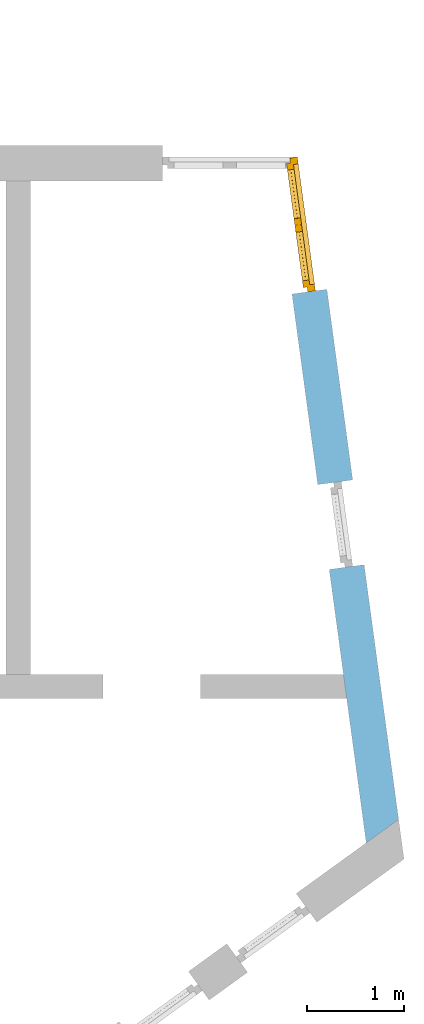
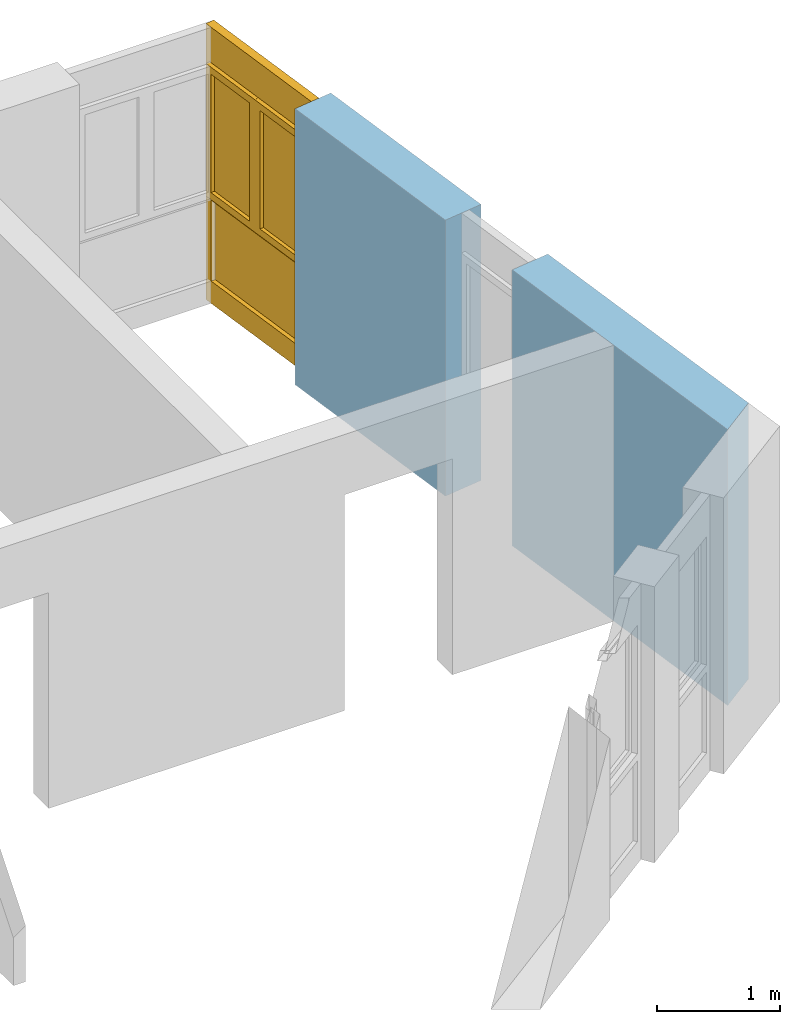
# One storey, part 40 of 41: 1 window, 2 openings, plus 1 element that does not belong to this part.
"""IFC2X3 building model written with IfcOpenShell, lengths in millimetres."""

from ifc_helpers import new_model, entity, si_unit, converted_unit, frame, frame_2d, origin, origin_with_axes, place, context, subcontext, project, spatial, polyline, rectangle, outline, extrude, faceted_brep, material, layer, layer_set, layer_usage, type_object, element, fill, save


model = new_model("IFC2X3")

# Units and contexts
model_context = context("Model", 3, precision=1e-05, world=origin())
body_context = subcontext(model_context, "Body", "Model", "MODEL_VIEW")
ifc_project = project(units=[si_unit("LENGTHUNIT", "METRE", prefix="MILLI"), converted_unit("PLANEANGLEUNIT", "DEGREE", entity("IfcPlaneAngleMeasure", 0.0174532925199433), si_unit("PLANEANGLEUNIT", "RADIAN"), dimensions=[0, 0, 0, 0, 0, 0, 0]), si_unit("AREAUNIT", "SQUARE_METRE"), si_unit("VOLUMEUNIT", "CUBIC_METRE")], contexts=[model_context])

# Building, storey
building_placement = place(None, origin())
building = spatial("IfcBuilding", under=ifc_project, at=building_placement, Name="Gebäude", CompositionType="ELEMENT")
storey_placement = place(building_placement, frame((0.0, 0.0, -200.0), z_axis=(0.0, 0.0, 1.0), x_axis=(1.0, 0.0, 0.0)))
storey = spatial("IfcBuildingStorey", under=building, at=storey_placement, Name="EG.- Grundriss", CompositionType="ELEMENT", Elevation=-200.0)

# Wall, openings, window
ifc_material_1 = material(Name="Poroton")
ifc_layer = layer(ifc_material_1, 365.0000000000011)
ifc_layer_set = layer_set([ifc_layer])
ifc_layer_usage = layer_usage(ifc_layer_set, "AXIS2", "POSITIVE", 0.0)
wall_placement = place(storey_placement, frame((185447.2761832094, 129305.31365621, 0.0), z_axis=(0.0, 0.0, 1.0), x_axis=(-0.1340451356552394, 0.9909752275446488, 0.0)))
wall = element("IfcWallStandardCase", 1, at=wall_placement, inside=storey, material=ifc_layer_usage, Name="<Unnamed Element>", context=body_context, shape_type="SweptSolid", body=[
    extrude(outline(polyline([(0.0, 0.0), (7033.045713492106, 1.13686837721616e-13), (7082.417759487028, 365.0000000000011), (-195.7205517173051, 364.9999999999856), (0.0, 0.0)])), origin_with_axes(), (0.0, 0.0, 1.0), 2730.0),
])
opening_1_placement = place(wall_placement, frame((5533.045713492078, -1.84172677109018e-11, 0.0), z_axis=(0.0, 1.0, 0.0), x_axis=(0.0, 0.0, 1.0)))
opening_1 = element("IfcOpeningElement", 2, at=opening_1_placement, cuts=wall, Name="Fensteröffnung", ObjectType="Opening", context=body_context, shape_type="Brep", body=[
    faceted_brep([(0.0, 1.455191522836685e-11, 365.0), (0.0, 1.455191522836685e-11, 0.0), (0.0, 1500.000000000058, 0.0), (0.0, 1701.067703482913, 1486.46284131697), (0.0, 1339.361745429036, 1535.389315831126), (0.0, 1181.048005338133, 365.0), (2730.0, 1.455191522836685e-11, 0.0), (2730.0, 1.455191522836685e-11, 365.0), (2730.0, 1181.048005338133, 365.0), (2730.0, 1339.361745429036, 1535.389315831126), (2730.0, 1701.067703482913, 1486.46284131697), (2730.0, 1500.000000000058, 0.0), (0.0, 1.455191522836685e-11, 0.0), (0.0, 1.455191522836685e-11, 365.0), (2730.0, 1.455191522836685e-11, 365.0), (2730.0, 1.455191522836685e-11, 0.0), (0.0, 1500.000000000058, 0.0), (0.0, 1.455191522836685e-11, 0.0), (2730.0, 1.455191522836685e-11, 0.0), (2730.0, 1500.000000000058, 0.0), (0.0, 1.455191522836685e-11, 365.0), (0.0, 1181.048005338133, 365.0), (2730.0, 1181.048005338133, 365.0), (2730.0, 1.455191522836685e-11, 365.0), (0.0, 1701.067703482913, 1486.46284131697), (0.0, 1500.000000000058, 0.0), (2730.0, 1500.000000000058, 0.0), (2730.0, 1701.067703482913, 1486.46284131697), (0.0, 1339.361745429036, 1535.389315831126), (0.0, 1701.067703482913, 1486.46284131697), (2730.0, 1701.067703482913, 1486.46284131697), (2730.0, 1339.361745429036, 1535.389315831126), (0.0, 1181.048005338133, 365.0), (0.0, 1339.361745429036, 1535.389315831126), (2730.0, 1339.361745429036, 1535.389315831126), (2730.0, 1181.048005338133, 365.0)], [[[0, 1, 2, 3, 4, 5]], [[6, 7, 8, 9, 10, 11]], [[12, 13, 14, 15]], [[16, 17, 18, 19]], [[20, 21, 22, 23]], [[24, 25, 26, 27]], [[28, 29, 30, 31]], [[32, 33, 34, 35]]], orient=[[False], [False], [False], [False], [False], [False], [False], [False]]),
])
opening_2_placement = place(wall_placement, frame((2658.045713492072, -2.228262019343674e-11, 0.0), z_axis=(0.0, 1.0, 0.0), x_axis=(0.0, 0.0, 1.0)))
element("IfcOpeningElement", 3, at=opening_2_placement, cuts=wall, Name="Fensteröffnung", ObjectType="Opening", context=body_context, shape_type="SweptSolid", body=[
    extrude(rectangle(XDim=2730.0, YDim=885.0000000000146, at=frame_2d((1365.0, 442.5000000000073), x_axis=(1.0, 0.0))), origin_with_axes(), (0.0, 0.0, 1.0), 365.0000000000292),
])
ifc_material_2 = material()
window_style = type_object("IfcWindowStyle", Name="Fenster", ConstructionType="NOTDEFINED", OperationType="USERDEFINED", ParameterTakesPrecedence=False, Sizeable=False)
window_placement = place(opening_1_placement, frame((0.0, 0.0, 0.0), z_axis=(1.0, 0.0, 0.0), x_axis=(0.0, 1.0, 0.0)))
window = element("IfcWindow", 4, at=window_placement, inside=storey, type_object=window_style, material=ifc_material_2, Name="Fenster", OverallHeight=2730.0, OverallWidth=1340.52, context=body_context, shape_type="Brep", body=[
    faceted_brep([(-1.499600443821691e-11, 199.9999999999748, 2730.0), (-1.499600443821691e-11, 199.9999999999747, -2.449293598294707e-15), (69.99999999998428, 199.9999999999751, -2.449293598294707e-15), (69.99999999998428, 199.9999999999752, 2730.0), (-1.455191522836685e-11, 119.9999999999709, 2.449293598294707e-15), (-1.455191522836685e-11, 119.9999999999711, 2730.0), (69.99999999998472, 119.9999999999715, 2730.0), (69.99999999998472, 119.9999999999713, 2.449293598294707e-15), (-1.499600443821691e-11, 199.9999999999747, -2.449293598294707e-15), (-1.499600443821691e-11, 199.9999999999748, 2730.0), (-1.455191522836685e-11, 119.9999999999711, 2730.0), (-1.455191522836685e-11, 119.9999999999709, 2.449293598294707e-15), (69.99999999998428, 199.9999999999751, -2.449293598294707e-15), (-1.499600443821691e-11, 199.9999999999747, -2.449293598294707e-15), (-1.455191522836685e-11, 119.9999999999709, 2.449293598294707e-15), (69.99999999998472, 119.9999999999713, 2.449293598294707e-15), (69.99999999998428, 199.9999999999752, 2730.0), (69.99999999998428, 199.9999999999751, -2.449293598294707e-15), (69.99999999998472, 119.9999999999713, 2.449293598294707e-15), (69.99999999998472, 119.9999999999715, 2730.0), (-1.499600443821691e-11, 199.9999999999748, 2730.0), (69.99999999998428, 199.9999999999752, 2730.0), (69.99999999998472, 119.9999999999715, 2730.0), (-1.455191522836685e-11, 119.9999999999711, 2730.0)], [[[0, 1, 2, 3]], [[4, 5, 6, 7]], [[8, 9, 10, 11]], [[12, 13, 14, 15]], [[16, 17, 18, 19]], [[20, 21, 22, 23]]], orient=[[False], [False], [False], [False], [False], [False]]),
    faceted_brep([(1325.139070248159, 199.9999999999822, 2730.0), (1325.139070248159, 199.999999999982, -2.449293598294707e-15), (1395.139070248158, 199.9999999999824, -2.449293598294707e-15), (1395.139070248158, 199.9999999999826, 2730.0), (1325.139070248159, 119.9999999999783, 2.449293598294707e-15), (1325.139070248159, 119.9999999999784, 2730.0), (1395.139070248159, 119.9999999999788, 2730.0), (1395.139070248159, 119.9999999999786, 2.449293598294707e-15), (1325.139070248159, 199.999999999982, -2.449293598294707e-15), (1325.139070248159, 199.9999999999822, 2730.0), (1325.139070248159, 119.9999999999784, 2730.0), (1325.139070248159, 119.9999999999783, 2.449293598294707e-15), (1395.139070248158, 199.9999999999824, -2.449293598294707e-15), (1325.139070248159, 199.999999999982, -2.449293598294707e-15), (1325.139070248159, 119.9999999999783, 2.449293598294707e-15), (1395.139070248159, 119.9999999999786, 2.449293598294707e-15), (1395.139070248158, 199.9999999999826, 2730.0), (1395.139070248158, 199.9999999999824, -2.449293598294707e-15), (1395.139070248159, 119.9999999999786, 2.449293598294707e-15), (1395.139070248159, 119.9999999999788, 2730.0), (1325.139070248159, 199.9999999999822, 2730.0), (1395.139070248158, 199.9999999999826, 2730.0), (1395.139070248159, 119.9999999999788, 2730.0), (1325.139070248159, 119.9999999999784, 2730.0)], [[[0, 1, 2, 3]], [[4, 5, 6, 7]], [[8, 9, 10, 11]], [[12, 13, 14, 15]], [[16, 17, 18, 19]], [[20, 21, 22, 23]]], orient=[[False], [False], [False], [False], [False], [False]]),
    faceted_brep([(69.99999999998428, 199.9999999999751, 220.0), (69.99999999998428, 199.9999999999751, -2.449293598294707e-15), (1325.139070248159, 199.999999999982, -2.449293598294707e-15), (1325.139070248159, 199.999999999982, 220.0), (69.99999999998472, 119.9999999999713, 2.449293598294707e-15), (69.99999999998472, 119.9999999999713, 220.0), (1325.139070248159, 119.9999999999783, 220.0), (1325.139070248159, 119.9999999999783, 2.449293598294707e-15), (69.99999999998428, 199.9999999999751, -2.449293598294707e-15), (69.99999999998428, 199.9999999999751, 220.0), (69.99999999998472, 119.9999999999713, 220.0), (69.99999999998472, 119.9999999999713, 2.449293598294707e-15), (1325.139070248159, 199.999999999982, -2.449293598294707e-15), (69.99999999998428, 199.9999999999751, -2.449293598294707e-15), (69.99999999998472, 119.9999999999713, 2.449293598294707e-15), (1325.139070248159, 119.9999999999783, 2.449293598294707e-15), (1325.139070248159, 199.999999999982, 220.0), (1325.139070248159, 199.999999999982, -2.449293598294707e-15), (1325.139070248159, 119.9999999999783, 2.449293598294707e-15), (1325.139070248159, 119.9999999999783, 220.0), (69.99999999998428, 199.9999999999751, 220.0), (1325.139070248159, 199.999999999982, 220.0), (1325.139070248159, 119.9999999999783, 220.0), (69.99999999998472, 119.9999999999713, 220.0)], [[[0, 1, 2, 3]], [[4, 5, 6, 7]], [[8, 9, 10, 11]], [[12, 13, 14, 15]], [[16, 17, 18, 19]], [[20, 21, 22, 23]]], orient=[[False], [False], [False], [False], [False], [False]]),
    faceted_brep([(69.99999999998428, 199.9999999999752, 2730.0), (69.99999999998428, 199.9999999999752, 2360.0), (1325.139070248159, 199.9999999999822, 2360.0), (1325.139070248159, 199.9999999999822, 2730.0), (69.99999999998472, 119.9999999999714, 2360.0), (69.99999999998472, 119.9999999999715, 2730.0), (1325.139070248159, 119.9999999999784, 2730.0), (1325.139070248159, 119.9999999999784, 2360.0), (69.99999999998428, 199.9999999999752, 2360.0), (69.99999999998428, 199.9999999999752, 2730.0), (69.99999999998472, 119.9999999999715, 2730.0), (69.99999999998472, 119.9999999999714, 2360.0), (1325.139070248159, 199.9999999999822, 2360.0), (69.99999999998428, 199.9999999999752, 2360.0), (69.99999999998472, 119.9999999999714, 2360.0), (1325.139070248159, 119.9999999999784, 2360.0), (1325.139070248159, 199.9999999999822, 2730.0), (1325.139070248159, 199.9999999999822, 2360.0), (1325.139070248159, 119.9999999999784, 2360.0), (1325.139070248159, 119.9999999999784, 2730.0), (69.99999999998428, 199.9999999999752, 2730.0), (1325.139070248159, 199.9999999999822, 2730.0), (1325.139070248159, 119.9999999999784, 2730.0), (69.99999999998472, 119.9999999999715, 2730.0)], [[[0, 1, 2, 3]], [[4, 5, 6, 7]], [[8, 9, 10, 11]], [[12, 13, 14, 15]], [[16, 17, 18, 19]], [[20, 21, 22, 23]]], orient=[[False], [False], [False], [False], [False], [False]]),
    faceted_brep([(69.99999999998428, 199.9999999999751, 1090.0), (69.99999999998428, 199.9999999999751, 1020.0), (1325.139070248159, 199.9999999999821, 1020.0), (1325.139070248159, 199.9999999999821, 1090.0), (69.99999999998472, 119.9999999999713, 1020.0), (69.99999999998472, 119.9999999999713, 1090.0), (1325.139070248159, 119.9999999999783, 1090.0), (1325.139070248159, 119.9999999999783, 1020.0), (69.99999999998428, 199.9999999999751, 1020.0), (69.99999999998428, 199.9999999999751, 1090.0), (69.99999999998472, 119.9999999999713, 1090.0), (69.99999999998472, 119.9999999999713, 1020.0), (1325.139070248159, 199.9999999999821, 1020.0), (69.99999999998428, 199.9999999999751, 1020.0), (69.99999999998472, 119.9999999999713, 1020.0), (1325.139070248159, 119.9999999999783, 1020.0), (1325.139070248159, 199.9999999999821, 1090.0), (1325.139070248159, 199.9999999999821, 1020.0), (1325.139070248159, 119.9999999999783, 1020.0), (1325.139070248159, 119.9999999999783, 1090.0), (69.99999999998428, 199.9999999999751, 1090.0), (1325.139070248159, 199.9999999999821, 1090.0), (1325.139070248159, 119.9999999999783, 1090.0), (69.99999999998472, 119.9999999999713, 1090.0)], [[[0, 1, 2, 3]], [[4, 5, 6, 7]], [[8, 9, 10, 11]], [[12, 13, 14, 15]], [[16, 17, 18, 19]], [[20, 21, 22, 23]]], orient=[[False], [False], [False], [False], [False], [False]]),
    faceted_brep([(69.9999999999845, 159.9999999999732, 220.0), (1325.139070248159, 159.9999999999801, 220.0), (1325.139070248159, 159.9999999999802, 1020.0), (69.9999999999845, 159.9999999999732, 1020.0), (69.9999999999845, 158.9999999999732, 220.0), (69.9999999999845, 158.9999999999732, 1020.0), (1325.139070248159, 158.9999999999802, 1020.0), (1325.139070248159, 158.9999999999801, 220.0), (69.9999999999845, 159.9999999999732, 220.0), (69.9999999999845, 158.9999999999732, 220.0), (1325.139070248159, 158.9999999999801, 220.0), (1325.139070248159, 159.9999999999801, 220.0), (1325.139070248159, 159.9999999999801, 220.0), (1325.139070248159, 158.9999999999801, 220.0), (1325.139070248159, 158.9999999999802, 1020.0), (1325.139070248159, 159.9999999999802, 1020.0), (1325.139070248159, 159.9999999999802, 1020.0), (1325.139070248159, 158.9999999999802, 1020.0), (69.9999999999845, 158.9999999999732, 1020.0), (69.9999999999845, 159.9999999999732, 1020.0), (69.9999999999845, 159.9999999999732, 1020.0), (69.9999999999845, 158.9999999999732, 1020.0), (69.9999999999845, 158.9999999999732, 220.0), (69.9999999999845, 159.9999999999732, 220.0)], [[[0, 1, 2, 3]], [[4, 5, 6, 7]], [[8, 9, 10, 11]], [[12, 13, 14, 15]], [[16, 17, 18, 19]], [[20, 21, 22, 23]]], orient=[[False], [False], [False], [False], [False], [False]]),
    faceted_brep([(49.99999999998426, 239.999999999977, 2380.0), (49.99999999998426, 239.9999999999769, 1070.0), (119.9999999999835, 239.9999999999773, 1070.0), (119.9999999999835, 239.9999999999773, 2380.0), (49.99999999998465, 169.9999999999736, 1070.0), (49.99999999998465, 169.9999999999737, 2380.0), (119.9999999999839, 169.9999999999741, 2380.0), (119.9999999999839, 169.999999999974, 1070.0), (49.99999999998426, 239.9999999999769, 1070.0), (49.99999999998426, 239.999999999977, 2380.0), (49.99999999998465, 169.9999999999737, 2380.0), (49.99999999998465, 169.9999999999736, 1070.0), (119.9999999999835, 239.9999999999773, 1070.0), (49.99999999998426, 239.9999999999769, 1070.0), (49.99999999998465, 169.9999999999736, 1070.0), (119.9999999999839, 169.999999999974, 1070.0), (119.9999999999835, 239.9999999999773, 2380.0), (119.9999999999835, 239.9999999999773, 1070.0), (119.9999999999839, 169.999999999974, 1070.0), (119.9999999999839, 169.9999999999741, 2380.0), (49.99999999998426, 239.999999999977, 2380.0), (119.9999999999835, 239.9999999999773, 2380.0), (119.9999999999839, 169.9999999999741, 2380.0), (49.99999999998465, 169.9999999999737, 2380.0)], [[[0, 1, 2, 3]], [[4, 5, 6, 7]], [[8, 9, 10, 11]], [[12, 13, 14, 15]], [[16, 17, 18, 19]], [[20, 21, 22, 23]]], orient=[[False], [False], [False], [False], [False], [False]]),
    faceted_brep([(627.0695351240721, 239.9999999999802, 2380.0), (627.0695351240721, 239.9999999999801, 1070.0), (697.0695351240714, 239.9999999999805, 1070.0), (697.0695351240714, 239.9999999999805, 2380.0), (627.0695351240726, 169.9999999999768, 1070.0), (627.0695351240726, 169.9999999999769, 2380.0), (697.0695351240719, 169.9999999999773, 2380.0), (697.0695351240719, 169.9999999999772, 1070.0), (627.0695351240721, 239.9999999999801, 1070.0), (627.0695351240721, 239.9999999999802, 2380.0), (627.0695351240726, 169.9999999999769, 2380.0), (627.0695351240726, 169.9999999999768, 1070.0), (697.0695351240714, 239.9999999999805, 1070.0), (627.0695351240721, 239.9999999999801, 1070.0), (627.0695351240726, 169.9999999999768, 1070.0), (697.0695351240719, 169.9999999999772, 1070.0), (697.0695351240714, 239.9999999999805, 2380.0), (697.0695351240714, 239.9999999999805, 1070.0), (697.0695351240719, 169.9999999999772, 1070.0), (697.0695351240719, 169.9999999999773, 2380.0), (627.0695351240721, 239.9999999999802, 2380.0), (697.0695351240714, 239.9999999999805, 2380.0), (697.0695351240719, 169.9999999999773, 2380.0), (627.0695351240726, 169.9999999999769, 2380.0)], [[[0, 1, 2, 3]], [[4, 5, 6, 7]], [[8, 9, 10, 11]], [[12, 13, 14, 15]], [[16, 17, 18, 19]], [[20, 21, 22, 23]]], orient=[[False], [False], [False], [False], [False], [False]]),
    faceted_brep([(119.9999999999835, 239.9999999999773, 1140.0), (119.9999999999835, 239.9999999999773, 1070.0), (627.0695351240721, 239.9999999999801, 1070.0), (627.0695351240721, 239.9999999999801, 1140.0), (119.9999999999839, 169.999999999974, 1070.0), (119.9999999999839, 169.999999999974, 1140.0), (627.0695351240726, 169.9999999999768, 1140.0), (627.0695351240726, 169.9999999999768, 1070.0), (119.9999999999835, 239.9999999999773, 1070.0), (119.9999999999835, 239.9999999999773, 1140.0), (119.9999999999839, 169.999999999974, 1140.0), (119.9999999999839, 169.999999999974, 1070.0), (627.0695351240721, 239.9999999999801, 1070.0), (119.9999999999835, 239.9999999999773, 1070.0), (119.9999999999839, 169.999999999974, 1070.0), (627.0695351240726, 169.9999999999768, 1070.0), (627.0695351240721, 239.9999999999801, 1140.0), (627.0695351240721, 239.9999999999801, 1070.0), (627.0695351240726, 169.9999999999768, 1070.0), (627.0695351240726, 169.9999999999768, 1140.0), (119.9999999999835, 239.9999999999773, 1140.0), (627.0695351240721, 239.9999999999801, 1140.0), (627.0695351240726, 169.9999999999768, 1140.0), (119.9999999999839, 169.999999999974, 1140.0)], [[[0, 1, 2, 3]], [[4, 5, 6, 7]], [[8, 9, 10, 11]], [[12, 13, 14, 15]], [[16, 17, 18, 19]], [[20, 21, 22, 23]]], orient=[[False], [False], [False], [False], [False], [False]]),
    faceted_brep([(119.9999999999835, 239.9999999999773, 2380.0), (119.9999999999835, 239.9999999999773, 2310.0), (627.0695351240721, 239.9999999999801, 2310.0), (627.0695351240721, 239.9999999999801, 2380.0), (119.9999999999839, 169.999999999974, 2310.0), (119.9999999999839, 169.999999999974, 2380.0), (627.0695351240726, 169.9999999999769, 2380.0), (627.0695351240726, 169.9999999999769, 2310.0), (119.9999999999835, 239.9999999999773, 2310.0), (119.9999999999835, 239.9999999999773, 2380.0), (119.9999999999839, 169.999999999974, 2380.0), (119.9999999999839, 169.999999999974, 2310.0), (627.0695351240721, 239.9999999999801, 2310.0), (119.9999999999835, 239.9999999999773, 2310.0), (119.9999999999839, 169.999999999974, 2310.0), (627.0695351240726, 169.9999999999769, 2310.0), (627.0695351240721, 239.9999999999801, 2380.0), (627.0695351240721, 239.9999999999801, 2310.0), (627.0695351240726, 169.9999999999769, 2310.0), (627.0695351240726, 169.9999999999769, 2380.0), (119.9999999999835, 239.9999999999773, 2380.0), (627.0695351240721, 239.9999999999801, 2380.0), (627.0695351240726, 169.9999999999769, 2380.0), (119.9999999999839, 169.999999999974, 2380.0)], [[[0, 1, 2, 3]], [[4, 5, 6, 7]], [[8, 9, 10, 11]], [[12, 13, 14, 15]], [[16, 17, 18, 19]], [[20, 21, 22, 23]]], orient=[[False], [False], [False], [False], [False], [False]]),
    faceted_brep([(698.0695351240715, 239.9999999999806, 2380.0), (698.0695351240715, 239.9999999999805, 1070.0), (768.0695351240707, 239.9999999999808, 1070.0), (768.0695351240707, 239.9999999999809, 2380.0), (698.069535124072, 169.9999999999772, 1070.0), (698.069535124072, 169.9999999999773, 2380.0), (768.0695351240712, 169.9999999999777, 2380.0), (768.0695351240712, 169.9999999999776, 1070.0), (698.0695351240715, 239.9999999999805, 1070.0), (698.0695351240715, 239.9999999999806, 2380.0), (698.069535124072, 169.9999999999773, 2380.0), (698.069535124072, 169.9999999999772, 1070.0), (768.0695351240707, 239.9999999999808, 1070.0), (698.0695351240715, 239.9999999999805, 1070.0), (698.069535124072, 169.9999999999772, 1070.0), (768.0695351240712, 169.9999999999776, 1070.0), (768.0695351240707, 239.9999999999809, 2380.0), (768.0695351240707, 239.9999999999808, 1070.0), (768.0695351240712, 169.9999999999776, 1070.0), (768.0695351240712, 169.9999999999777, 2380.0), (698.0695351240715, 239.9999999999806, 2380.0), (768.0695351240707, 239.9999999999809, 2380.0), (768.0695351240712, 169.9999999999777, 2380.0), (698.069535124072, 169.9999999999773, 2380.0)], [[[0, 1, 2, 3]], [[4, 5, 6, 7]], [[8, 9, 10, 11]], [[12, 13, 14, 15]], [[16, 17, 18, 19]], [[20, 21, 22, 23]]], orient=[[False], [False], [False], [False], [False], [False]]),
    faceted_brep([(1275.139070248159, 239.9999999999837, 2380.0), (1275.139070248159, 239.9999999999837, 1070.0), (1345.139070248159, 239.999999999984, 1070.0), (1345.139070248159, 239.9999999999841, 2380.0), (1275.13907024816, 169.9999999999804, 1070.0), (1275.13907024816, 169.9999999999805, 2380.0), (1345.139070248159, 169.9999999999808, 2380.0), (1345.139070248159, 169.9999999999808, 1070.0), (1275.139070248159, 239.9999999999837, 1070.0), (1275.139070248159, 239.9999999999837, 2380.0), (1275.13907024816, 169.9999999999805, 2380.0), (1275.13907024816, 169.9999999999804, 1070.0), (1345.139070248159, 239.999999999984, 1070.0), (1275.139070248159, 239.9999999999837, 1070.0), (1275.13907024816, 169.9999999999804, 1070.0), (1345.139070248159, 169.9999999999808, 1070.0), (1345.139070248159, 239.9999999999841, 2380.0), (1345.139070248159, 239.999999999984, 1070.0), (1345.139070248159, 169.9999999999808, 1070.0), (1345.139070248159, 169.9999999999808, 2380.0), (1275.139070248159, 239.9999999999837, 2380.0), (1345.139070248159, 239.9999999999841, 2380.0), (1345.139070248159, 169.9999999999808, 2380.0), (1275.13907024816, 169.9999999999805, 2380.0)], [[[0, 1, 2, 3]], [[4, 5, 6, 7]], [[8, 9, 10, 11]], [[12, 13, 14, 15]], [[16, 17, 18, 19]], [[20, 21, 22, 23]]], orient=[[False], [False], [False], [False], [False], [False]]),
    faceted_brep([(768.0695351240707, 239.9999999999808, 1140.0), (768.0695351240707, 239.9999999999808, 1070.0), (1275.139070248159, 239.9999999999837, 1070.0), (1275.139070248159, 239.9999999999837, 1140.0), (768.0695351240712, 169.9999999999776, 1070.0), (768.0695351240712, 169.9999999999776, 1140.0), (1275.13907024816, 169.9999999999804, 1140.0), (1275.13907024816, 169.9999999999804, 1070.0), (768.0695351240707, 239.9999999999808, 1070.0), (768.0695351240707, 239.9999999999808, 1140.0), (768.0695351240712, 169.9999999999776, 1140.0), (768.0695351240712, 169.9999999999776, 1070.0), (1275.139070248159, 239.9999999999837, 1070.0), (768.0695351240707, 239.9999999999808, 1070.0), (768.0695351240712, 169.9999999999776, 1070.0), (1275.13907024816, 169.9999999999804, 1070.0), (1275.139070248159, 239.9999999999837, 1140.0), (1275.139070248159, 239.9999999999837, 1070.0), (1275.13907024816, 169.9999999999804, 1070.0), (1275.13907024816, 169.9999999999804, 1140.0), (768.0695351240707, 239.9999999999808, 1140.0), (1275.139070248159, 239.9999999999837, 1140.0), (1275.13907024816, 169.9999999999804, 1140.0), (768.0695351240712, 169.9999999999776, 1140.0)], [[[0, 1, 2, 3]], [[4, 5, 6, 7]], [[8, 9, 10, 11]], [[12, 13, 14, 15]], [[16, 17, 18, 19]], [[20, 21, 22, 23]]], orient=[[False], [False], [False], [False], [False], [False]]),
    faceted_brep([(768.0695351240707, 239.9999999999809, 2380.0), (768.0695351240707, 239.9999999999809, 2310.0), (1275.139070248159, 239.9999999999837, 2310.0), (1275.139070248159, 239.9999999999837, 2380.0), (768.0695351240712, 169.9999999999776, 2310.0), (768.0695351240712, 169.9999999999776, 2380.0), (1275.13907024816, 169.9999999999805, 2380.0), (1275.13907024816, 169.9999999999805, 2310.0), (768.0695351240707, 239.9999999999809, 2310.0), (768.0695351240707, 239.9999999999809, 2380.0), (768.0695351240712, 169.9999999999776, 2380.0), (768.0695351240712, 169.9999999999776, 2310.0), (1275.139070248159, 239.9999999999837, 2310.0), (768.0695351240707, 239.9999999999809, 2310.0), (768.0695351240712, 169.9999999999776, 2310.0), (1275.13907024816, 169.9999999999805, 2310.0), (1275.139070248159, 239.9999999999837, 2380.0), (1275.139070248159, 239.9999999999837, 2310.0), (1275.13907024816, 169.9999999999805, 2310.0), (1275.13907024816, 169.9999999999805, 2380.0), (768.0695351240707, 239.9999999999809, 2380.0), (1275.139070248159, 239.9999999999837, 2380.0), (1275.13907024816, 169.9999999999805, 2380.0), (768.0695351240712, 169.9999999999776, 2380.0)], [[[0, 1, 2, 3]], [[4, 5, 6, 7]], [[8, 9, 10, 11]], [[12, 13, 14, 15]], [[16, 17, 18, 19]], [[20, 21, 22, 23]]], orient=[[False], [False], [False], [False], [False], [False]]),
    faceted_brep([(119.9999999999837, 204.9999999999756, 1140.0), (627.0695351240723, 204.9999999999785, 1140.0), (627.0695351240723, 204.9999999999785, 2310.0), (119.9999999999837, 204.9999999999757, 2310.0), (119.9999999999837, 203.9999999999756, 1140.0), (119.9999999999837, 203.9999999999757, 2310.0), (627.0695351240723, 203.9999999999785, 2310.0), (627.0695351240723, 203.9999999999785, 1140.0), (119.9999999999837, 204.9999999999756, 1140.0), (119.9999999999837, 203.9999999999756, 1140.0), (627.0695351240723, 203.9999999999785, 1140.0), (627.0695351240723, 204.9999999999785, 1140.0), (627.0695351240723, 204.9999999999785, 1140.0), (627.0695351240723, 203.9999999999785, 1140.0), (627.0695351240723, 203.9999999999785, 2310.0), (627.0695351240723, 204.9999999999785, 2310.0), (627.0695351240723, 204.9999999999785, 2310.0), (627.0695351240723, 203.9999999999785, 2310.0), (119.9999999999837, 203.9999999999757, 2310.0), (119.9999999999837, 204.9999999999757, 2310.0), (119.9999999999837, 204.9999999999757, 2310.0), (119.9999999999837, 203.9999999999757, 2310.0), (119.9999999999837, 203.9999999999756, 1140.0), (119.9999999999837, 204.9999999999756, 1140.0)], [[[0, 1, 2, 3]], [[4, 5, 6, 7]], [[8, 9, 10, 11]], [[12, 13, 14, 15]], [[16, 17, 18, 19]], [[20, 21, 22, 23]]], orient=[[False], [False], [False], [False], [False], [False]]),
    faceted_brep([(768.069535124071, 204.9999999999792, 1140.0), (1275.13907024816, 204.999999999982, 1140.0), (1275.13907024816, 204.9999999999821, 2310.0), (768.069535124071, 204.9999999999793, 2310.0), (768.069535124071, 203.9999999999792, 1140.0), (768.069535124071, 203.9999999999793, 2310.0), (1275.13907024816, 203.9999999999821, 2310.0), (1275.13907024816, 203.999999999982, 1140.0), (768.069535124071, 204.9999999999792, 1140.0), (768.069535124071, 203.9999999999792, 1140.0), (1275.13907024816, 203.999999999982, 1140.0), (1275.13907024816, 204.999999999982, 1140.0), (1275.13907024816, 204.999999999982, 1140.0), (1275.13907024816, 203.999999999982, 1140.0), (1275.13907024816, 203.9999999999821, 2310.0), (1275.13907024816, 204.9999999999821, 2310.0), (1275.13907024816, 204.9999999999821, 2310.0), (1275.13907024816, 203.9999999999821, 2310.0), (768.069535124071, 203.9999999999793, 2310.0), (768.069535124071, 204.9999999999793, 2310.0), (768.069535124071, 204.9999999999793, 2310.0), (768.069535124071, 203.9999999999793, 2310.0), (768.069535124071, 203.9999999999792, 1140.0), (768.069535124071, 204.9999999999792, 1140.0)], [[[0, 1, 2, 3]], [[4, 5, 6, 7]], [[8, 9, 10, 11]], [[12, 13, 14, 15]], [[16, 17, 18, 19]], [[20, 21, 22, 23]]], orient=[[False], [False], [False], [False], [False], [False]]),
])
fill(opening_1, window)

save(model, "model.ifc")
